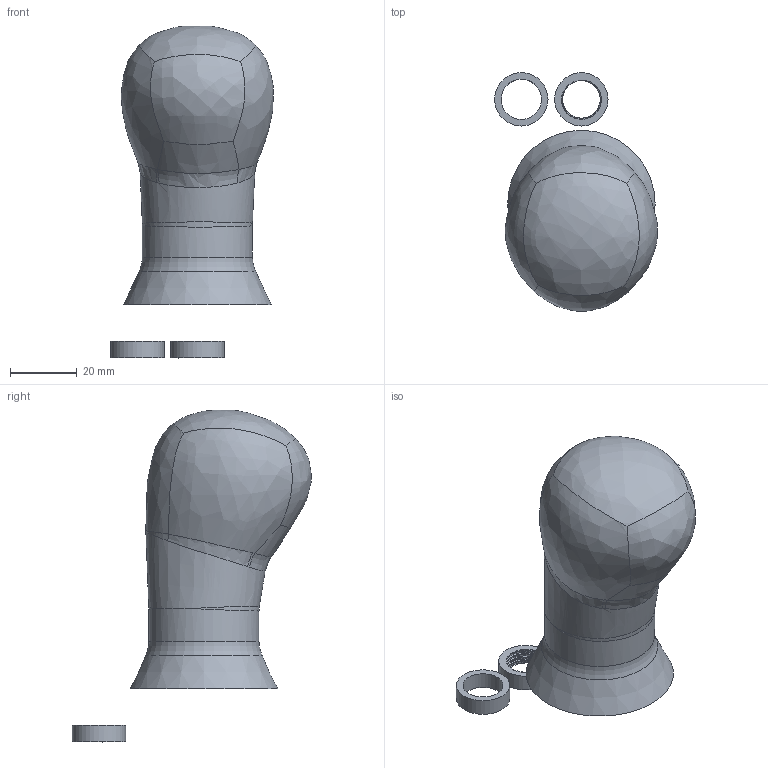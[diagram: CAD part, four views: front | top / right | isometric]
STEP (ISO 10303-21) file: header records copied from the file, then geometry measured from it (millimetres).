
FILE_DESCRIPTION(/* description */ (''),/* implementation_level */ '2;1');
FILE_NAME(/* name */ 'c:\worker\convert-fusion-jul-2018\tmp\job-1\494\output\files\1c9b4f2e-cc48-47dd-8ecf-cb034bbd39f8\a576d369-3bc8-44f0-857c-dae0ff0c99d5.stp',/* time_stamp */ '2018-08-02T20:37:02+00:00',/* author */ (''),/* organization */ (''),/* preprocessor_version */ 'ST-DEVELOPER v17',/* originating_system */ 'Autodesk Translation Framework v7.1.0.215',/* authorisation */ '');
FILE_SCHEMA (('AUTOMOTIVE_DESIGN { 1 0 10303 214 3 1 1 }'));
Length unit declared in the file: millimetre
Products named in the file (1): Gear Stick
Bounding box: 48.78 x 71.66 x 99.47 mm (x, y, z)
Volume: 80939.2 mm3; surface area: 17742.5 mm2
Topology: 3 solids, 3 shells, 63 faces, 211 edges, 151 vertices
Faces by surface type: cylinder 33, bspline 20, plane 6, cone 3, torus 1
Full cylindrical faces by diameter (mm): 11.98 x6, 12 x1, 12.02 x18, 16 x2, 21.5 x1, 33 x1
Entity records: 11090 total; most frequent: CARTESIAN_POINT 9504, ORIENTED_EDGE 412, EDGE_CURVE 206, DIRECTION 191, VERTEX_POINT 151, B_SPLINE_CURVE_WITH_KNOTS 137, AXIS2_PLACEMENT_3D 78, EDGE_LOOP 69
